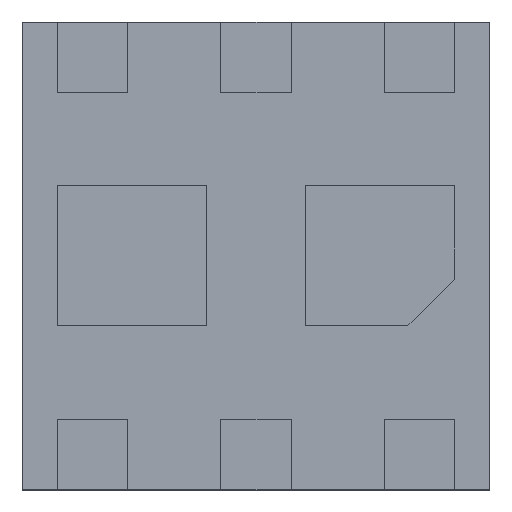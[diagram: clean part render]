
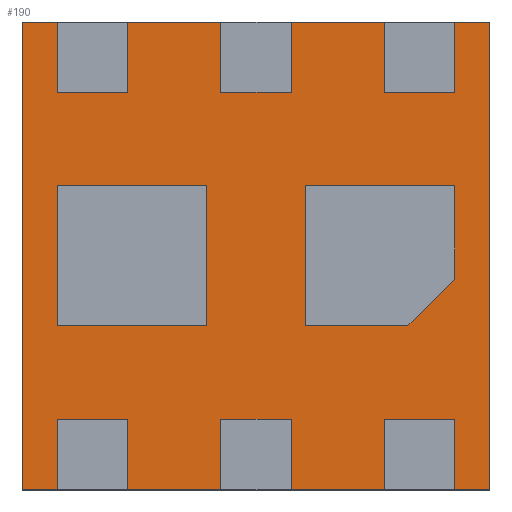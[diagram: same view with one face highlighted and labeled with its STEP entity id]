
A CAD part, top view. The second image highlights one B-rep face of the part: STEP entity #190.
In plain terms, the highlighted planar face has unit normal (0, 0, 1).
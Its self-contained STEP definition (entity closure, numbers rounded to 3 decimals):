
#18 = ORIENTED_EDGE ( 'NONE', *, *, #38, .F. ) ;
#38 = EDGE_CURVE ( 'NONE', #862, #1000, #816, .T. ) ;
#42 = CARTESIAN_POINT ( 'NONE',  ( 1.369, 1.201, 1.361 ) ) ;
#155 = AXIS2_PLACEMENT_3D ( 'NONE', #1005, #635, #1095 ) ;
#166 = VECTOR ( 'NONE', #1418, 1000. ) ;
#190 = ADVANCED_FACE ( 'NONE', ( #1319 ), #1326, .F. ) ;
#244 = VERTEX_POINT ( 'NONE', #641 ) ;
#411 = LINE ( 'NONE', #42, #1207 ) ;
#441 = LINE ( 'NONE', #1349, #1347 ) ;
#635 = DIRECTION ( 'NONE',  ( 0., 0., -1. ) ) ;
#641 = CARTESIAN_POINT ( 'NONE',  ( 0.369, 1.201, 1.361 ) ) ;
#645 = VECTOR ( 'NONE', #1154, 1000. ) ;
#647 = CARTESIAN_POINT ( 'NONE',  ( 1.369, 1.201, 1.361 ) ) ;
#677 = ORIENTED_EDGE ( 'NONE', *, *, #1354, .F. ) ;
#701 = EDGE_CURVE ( 'NONE', #244, #1108, #441, .T. ) ;
#745 = LINE ( 'NONE', #1198, #166 ) ;
#770 = ORIENTED_EDGE ( 'NONE', *, *, #701, .F. ) ;
#816 = LINE ( 'NONE', #914, #645 ) ;
#862 = VERTEX_POINT ( 'NONE', #918 ) ;
#914 = CARTESIAN_POINT ( 'NONE',  ( 1.369, 0.201, 1.361 ) ) ;
#918 = CARTESIAN_POINT ( 'NONE',  ( 1.369, 0.201, 1.361 ) ) ;
#950 = DIRECTION ( 'NONE',  ( 0., -1., 0. ) ) ;
#977 = CARTESIAN_POINT ( 'NONE',  ( 0.369, 0.201, 1.361 ) ) ;
#1000 = VERTEX_POINT ( 'NONE', #977 ) ;
#1005 = CARTESIAN_POINT ( 'NONE',  ( 0.869, 0.701, 1.361 ) ) ;
#1027 = EDGE_CURVE ( 'NONE', #1108, #862, #411, .T. ) ;
#1095 = DIRECTION ( 'NONE',  ( -1., 0., 0. ) ) ;
#1108 = VERTEX_POINT ( 'NONE', #647 ) ;
#1154 = DIRECTION ( 'NONE',  ( -1., 0., 0. ) ) ;
#1156 = EDGE_LOOP ( 'NONE', ( #677, #18, #1335, #770 ) ) ;
#1194 = DIRECTION ( 'NONE',  ( 1., 0., 0. ) ) ;
#1198 = CARTESIAN_POINT ( 'NONE',  ( 0.369, 0.201, 1.361 ) ) ;
#1207 = VECTOR ( 'NONE', #950, 1000. ) ;
#1319 = FACE_OUTER_BOUND ( 'NONE', #1156, .T. ) ;
#1326 = PLANE ( 'NONE',  #155 ) ;
#1335 = ORIENTED_EDGE ( 'NONE', *, *, #1027, .F. ) ;
#1347 = VECTOR ( 'NONE', #1194, 1000. ) ;
#1349 = CARTESIAN_POINT ( 'NONE',  ( 0.369, 1.201, 1.361 ) ) ;
#1354 = EDGE_CURVE ( 'NONE', #1000, #244, #745, .T. ) ;
#1418 = DIRECTION ( 'NONE',  ( 0., 1., 0. ) ) ;
